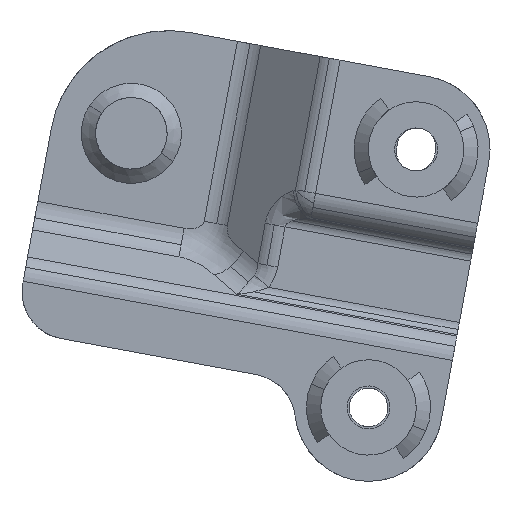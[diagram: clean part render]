
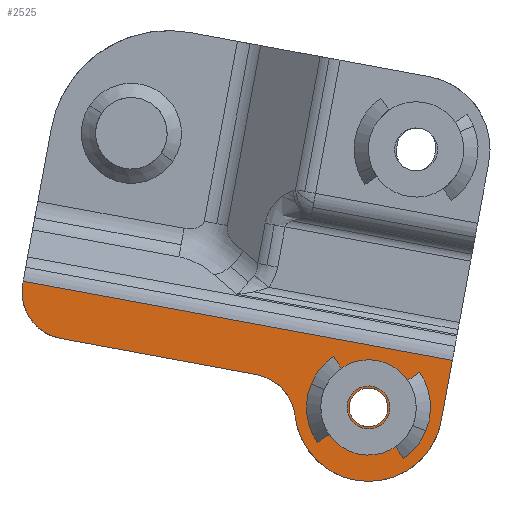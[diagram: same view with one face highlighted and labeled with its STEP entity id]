
A CAD part, front view. The second image highlights one B-rep face of the part: STEP entity #2525.
In plain terms, the highlighted planar face has unit normal (0, -1, 0).
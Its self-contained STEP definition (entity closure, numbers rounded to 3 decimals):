
#1988=AXIS2_PLACEMENT_3D('Circle Axis2P3D',#1986,#1987,$) ;
#2366=AXIS2_PLACEMENT_3D('Circle Axis2P3D',#2364,#2365,$) ;
#2390=AXIS2_PLACEMENT_3D('Circle Axis2P3D',#2388,#2389,$) ;
#2407=AXIS2_PLACEMENT_3D('Circle Axis2P3D',#2405,#2406,$) ;
#2462=AXIS2_PLACEMENT_3D('Circle Axis2P3D',#2460,#2461,$) ;
#2504=AXIS2_PLACEMENT_3D('Plane Axis2P3D',#2501,#2502,#2503) ;
#1976=CARTESIAN_POINT('Vertex',(-44.965,-503.,557.005)) ;
#1983=CARTESIAN_POINT('Vertex',(-36.944,-503.,545.357)) ;
#1986=CARTESIAN_POINT('Axis2P3D Location',(-35.131,-503.,555.192)) ;
#2003=CARTESIAN_POINT('Line Origine',(-44.931,-503.,557.192)) ;
#2007=CARTESIAN_POINT('Vertex',(-44.896,-503.,557.379)) ;
#2162=CARTESIAN_POINT('Vertex',(42.753,-503.,528.124)) ;
#2317=CARTESIAN_POINT('Vertex',(45.088,-503.,540.792)) ;
#2320=CARTESIAN_POINT('Line Origine',(43.92,-503.,534.458)) ;
#2361=CARTESIAN_POINT('Vertex',(24.7,-503.,515.691)) ;
#2364=CARTESIAN_POINT('Axis2P3D Location',(27.509,-503.,530.934)) ;
#2385=CARTESIAN_POINT('Vertex',(12.114,-503.,529.137)) ;
#2388=CARTESIAN_POINT('Axis2P3D Location',(27.509,-503.,530.934)) ;
#2405=CARTESIAN_POINT('Axis2P3D Location',(2.181,-503.,527.977)) ;
#2409=CARTESIAN_POINT('Vertex',(3.994,-503.,537.811)) ;
#2429=CARTESIAN_POINT('Line Origine',(-16.475,-503.,541.584)) ;
#2450=CARTESIAN_POINT('Vertex',(23.464,-503.,530.732)) ;
#2457=CARTESIAN_POINT('Vertex',(31.554,-503.,531.136)) ;
#2460=CARTESIAN_POINT('Axis2P3D Location',(27.509,-503.,530.934)) ;
#2478=CARTESIAN_POINT('Control Point',(31.554,-503.,531.136)) ;
#2479=CARTESIAN_POINT('Control Point',(31.586,-503.,530.501)) ;
#2480=CARTESIAN_POINT('Control Point',(31.493,-503.,529.859)) ;
#2481=CARTESIAN_POINT('Control Point',(31.274,-503.,529.244)) ;
#2482=CARTESIAN_POINT('Control Point',(30.605,-503.,528.133)) ;
#2483=CARTESIAN_POINT('Control Point',(29.566,-503.,527.357)) ;
#2484=CARTESIAN_POINT('Control Point',(28.976,-503.,527.078)) ;
#2485=CARTESIAN_POINT('Control Point',(27.718,-503.,526.765)) ;
#2486=CARTESIAN_POINT('Control Point',(26.435,-503.,526.951)) ;
#2487=CARTESIAN_POINT('Control Point',(25.819,-503.,527.17)) ;
#2488=CARTESIAN_POINT('Control Point',(24.708,-503.,527.838)) ;
#2489=CARTESIAN_POINT('Control Point',(23.932,-503.,528.877)) ;
#2490=CARTESIAN_POINT('Control Point',(23.653,-503.,529.468)) ;
#2491=CARTESIAN_POINT('Control Point',(23.496,-503.,530.097)) ;
#2492=CARTESIAN_POINT('Control Point',(23.464,-503.,530.732)) ;
#2501=CARTESIAN_POINT('Axis2P3D Location',(47.738,-503.,555.169)) ;
#2506=CARTESIAN_POINT('Line Origine',(0.096,-503.,549.086)) ;
#1987=DIRECTION('Axis2P3D Direction',(0.,1.,0.)) ;
#2004=DIRECTION('Vector Direction',(-0.181,0.,-0.983)) ;
#2321=DIRECTION('Vector Direction',(-0.181,0.,-0.983)) ;
#2365=DIRECTION('Axis2P3D Direction',(0.,1.,0.)) ;
#2389=DIRECTION('Axis2P3D Direction',(0.,1.,0.)) ;
#2406=DIRECTION('Axis2P3D Direction',(0.,-1.,0.)) ;
#2430=DIRECTION('Vector Direction',(-0.983,0.,0.181)) ;
#2461=DIRECTION('Axis2P3D Direction',(0.,1.,0.)) ;
#2502=DIRECTION('Axis2P3D Direction',(0.,-1.,0.)) ;
#2503=DIRECTION('Axis2P3D XDirection',(-0.983,0.,0.181)) ;
#2507=DIRECTION('Vector Direction',(-0.983,0.,0.181)) ;
#2005=VECTOR('Line Direction',#2004,1.) ;
#2322=VECTOR('Line Direction',#2321,1.) ;
#2431=VECTOR('Line Direction',#2430,1.) ;
#2508=VECTOR('Line Direction',#2507,1.) ;
#2512=ORIENTED_EDGE('',*,*,#2392,.F.) ;
#2513=ORIENTED_EDGE('',*,*,#2368,.T.) ;
#2514=ORIENTED_EDGE('',*,*,#2324,.F.) ;
#2515=ORIENTED_EDGE('',*,*,#2510,.T.) ;
#2516=ORIENTED_EDGE('',*,*,#2009,.T.) ;
#2517=ORIENTED_EDGE('',*,*,#1990,.T.) ;
#2518=ORIENTED_EDGE('',*,*,#2433,.F.) ;
#2519=ORIENTED_EDGE('',*,*,#2411,.F.) ;
#2522=ORIENTED_EDGE('',*,*,#2493,.T.) ;
#2523=ORIENTED_EDGE('',*,*,#2464,.T.) ;
#2524=FACE_BOUND('',#2521,.T.) ;
#2525=ADVANCED_FACE('SHT0014367 H6\X2\6276624B652F67B6\X0\',(#2520,#2524),#2505,.T.) ;
#2477=B_SPLINE_CURVE_WITH_KNOTS('',5,(#2478,#2479,#2480,#2481,#2482,#2483,#2484,#2485,#2486,#2487,#2488,#2489,#2490,#2491,#2492),.UNSPECIFIED.,.F.,.U.,(6,3,3,3,6),(-6.362,-3.181,0.,3.181,6.362),.UNSPECIFIED.) ;
#1989=CIRCLE('generated circle',#1988,10.) ;
#2367=CIRCLE('generated circle',#2366,15.5) ;
#2391=CIRCLE('generated circle',#2390,15.5) ;
#2408=CIRCLE('generated circle',#2407,10.) ;
#2463=CIRCLE('generated circle',#2462,4.05) ;
#1990=EDGE_CURVE('',#1977,#1984,#1989,.F.) ;
#2009=EDGE_CURVE('',#2008,#1977,#2006,.T.) ;
#2324=EDGE_CURVE('',#2318,#2163,#2323,.T.) ;
#2368=EDGE_CURVE('',#2362,#2163,#2367,.F.) ;
#2392=EDGE_CURVE('',#2362,#2386,#2391,.T.) ;
#2411=EDGE_CURVE('',#2386,#2410,#2408,.T.) ;
#2433=EDGE_CURVE('',#2410,#1984,#2432,.T.) ;
#2464=EDGE_CURVE('',#2451,#2458,#2463,.T.) ;
#2493=EDGE_CURVE('',#2458,#2451,#2477,.T.) ;
#2510=EDGE_CURVE('',#2318,#2008,#2509,.T.) ;
#2511=EDGE_LOOP('',(#2512,#2513,#2514,#2515,#2516,#2517,#2518,#2519)) ;
#2521=EDGE_LOOP('',(#2522,#2523)) ;
#2520=FACE_OUTER_BOUND('',#2511,.T.) ;
#2006=LINE('Line',#2003,#2005) ;
#2323=LINE('Line',#2320,#2322) ;
#2432=LINE('Line',#2429,#2431) ;
#2509=LINE('Line',#2506,#2508) ;
#2505=PLANE('Plane',#2504) ;
#1977=VERTEX_POINT('',#1976) ;
#1984=VERTEX_POINT('',#1983) ;
#2008=VERTEX_POINT('',#2007) ;
#2163=VERTEX_POINT('',#2162) ;
#2318=VERTEX_POINT('',#2317) ;
#2362=VERTEX_POINT('',#2361) ;
#2386=VERTEX_POINT('',#2385) ;
#2410=VERTEX_POINT('',#2409) ;
#2451=VERTEX_POINT('',#2450) ;
#2458=VERTEX_POINT('',#2457) ;
